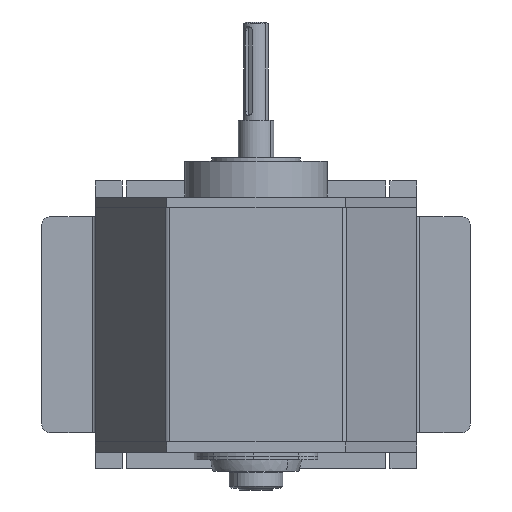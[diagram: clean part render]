
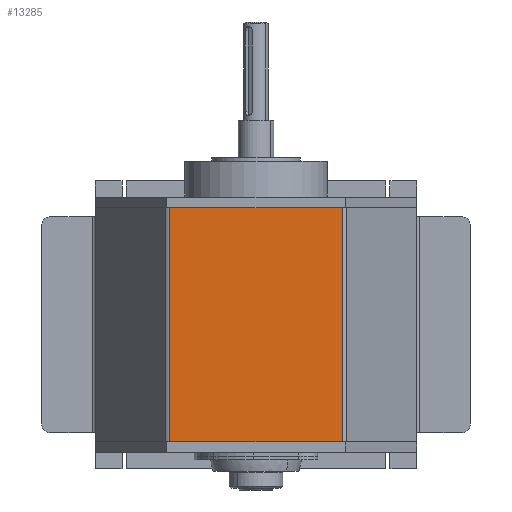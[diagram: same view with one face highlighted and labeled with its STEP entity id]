
A CAD part, front view. The second image highlights one B-rep face of the part: STEP entity #13285.
In plain terms, the highlighted planar face has unit normal (0, -1, 0).
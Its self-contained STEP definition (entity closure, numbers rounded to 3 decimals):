
#59 = LINE ( 'NONE', #10157, #6510 ) ;
#526 = AXIS2_PLACEMENT_3D ( 'NONE', #4891, #12976, #2629 ) ;
#632 = CARTESIAN_POINT ( 'NONE',  ( 48.268, 0., -65.5 ) ) ;
#774 = CARTESIAN_POINT ( 'NONE',  ( -48.268, 0., -65.5 ) ) ;
#2600 = EDGE_LOOP ( 'NONE', ( #10447, #15499, #4616, #14988 ) ) ;
#2629 = DIRECTION ( 'NONE',  ( -1., 0., 0. ) ) ;
#2717 = PLANE ( 'NONE',  #526 ) ;
#3365 = DIRECTION ( 'NONE',  ( 1., 0., 0. ) ) ;
#3384 = VERTEX_POINT ( 'NONE', #632 ) ;
#3673 = VERTEX_POINT ( 'NONE', #774 ) ;
#4616 = ORIENTED_EDGE ( 'NONE', *, *, #7251, .T. ) ;
#4817 = CARTESIAN_POINT ( 'NONE',  ( -50., 0., 65.5 ) ) ;
#4891 = CARTESIAN_POINT ( 'NONE',  ( -50., 0., 354.779 ) ) ;
#5066 = VECTOR ( 'NONE', #10215, 1000. ) ;
#5148 = CARTESIAN_POINT ( 'NONE',  ( -48.268, 0., 65.5 ) ) ;
#5834 = FACE_OUTER_BOUND ( 'NONE', #2600, .T. ) ;
#6252 = LINE ( 'NONE', #4817, #8894 ) ;
#6510 = VECTOR ( 'NONE', #3365, 1000. ) ;
#6770 = CARTESIAN_POINT ( 'NONE',  ( -48.268, 0., 354.779 ) ) ;
#7251 = EDGE_CURVE ( 'NONE', #3673, #3384, #59, .T. ) ;
#7636 = DIRECTION ( 'NONE',  ( 0., 0., -1. ) ) ;
#8894 = VECTOR ( 'NONE', #13802, 1000. ) ;
#9588 = VERTEX_POINT ( 'NONE', #14242 ) ;
#10157 = CARTESIAN_POINT ( 'NONE',  ( -50., 0., -65.5 ) ) ;
#10215 = DIRECTION ( 'NONE',  ( 0., 0., -1. ) ) ;
#10332 = EDGE_CURVE ( 'NONE', #9588, #3384, #11934, .T. ) ;
#10447 = ORIENTED_EDGE ( 'NONE', *, *, #10743, .T. ) ;
#10743 = EDGE_CURVE ( 'NONE', #9588, #13535, #6252, .T. ) ;
#11865 = VECTOR ( 'NONE', #7636, 1000. ) ;
#11934 = LINE ( 'NONE', #12396, #5066 ) ;
#12396 = CARTESIAN_POINT ( 'NONE',  ( 48.268, 0., 354.779 ) ) ;
#12976 = DIRECTION ( 'NONE',  ( 0., 1., 0. ) ) ;
#13285 = ADVANCED_FACE ( 'NONE', ( #5834 ), #2717, .F. ) ;
#13535 = VERTEX_POINT ( 'NONE', #5148 ) ;
#13802 = DIRECTION ( 'NONE',  ( -1., 0., 0. ) ) ;
#14242 = CARTESIAN_POINT ( 'NONE',  ( 48.268, 0., 65.5 ) ) ;
#14481 = EDGE_CURVE ( 'NONE', #13535, #3673, #15313, .T. ) ;
#14988 = ORIENTED_EDGE ( 'NONE', *, *, #10332, .F. ) ;
#15313 = LINE ( 'NONE', #6770, #11865 ) ;
#15499 = ORIENTED_EDGE ( 'NONE', *, *, #14481, .T. ) ;
